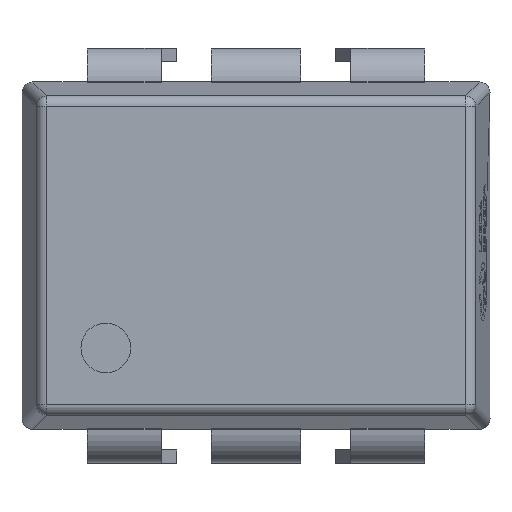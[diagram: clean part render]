
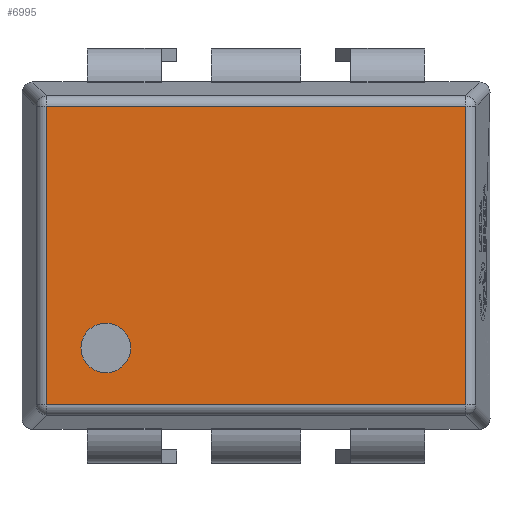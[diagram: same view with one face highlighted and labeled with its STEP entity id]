
A CAD part, top view. The second image highlights one B-rep face of the part: STEP entity #6995.
In plain terms, the highlighted planar face has unit normal (0, 0, 1).
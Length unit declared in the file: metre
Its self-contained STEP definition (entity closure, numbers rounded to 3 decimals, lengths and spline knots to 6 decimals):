
#427=CIRCLE('',#9329,0.000472);
#1834=ORIENTED_EDGE('',*,*,#3195,.F.);
#1835=ORIENTED_EDGE('',*,*,#3158,.T.);
#1836=ORIENTED_EDGE('',*,*,#3189,.T.);
#1837=ORIENTED_EDGE('',*,*,#3193,.T.);
#1838=ORIENTED_EDGE('',*,*,#3162,.T.);
#3158=EDGE_CURVE('',#3856,#3865,#4502,.T.);
#3162=EDGE_CURVE('',#3866,#3856,#4505,.T.);
#3189=EDGE_CURVE('',#3865,#3878,#4520,.T.);
#3193=EDGE_CURVE('',#3878,#3866,#4523,.T.);
#3195=EDGE_CURVE('',#3880,#3880,#427,.T.);
#3856=VERTEX_POINT('',#13514);
#3865=VERTEX_POINT('',#13544);
#3866=VERTEX_POINT('',#13549);
#3878=VERTEX_POINT('',#13601);
#3880=VERTEX_POINT('',#13617);
#4502=LINE('',#13545,#5189);
#4505=LINE('',#13552,#5192);
#4520=LINE('',#13602,#5207);
#4523=LINE('',#13607,#5210);
#5189=VECTOR('',#10555,1.);
#5192=VECTOR('',#10562,1.);
#5207=VECTOR('',#10625,1.);
#5210=VECTOR('',#10632,1.);
#5672=EDGE_LOOP('',(#1834));
#5673=EDGE_LOOP('',(#1835,#1836,#1837,#1838));
#6065=FACE_BOUND('',#5672,.T.);
#6066=FACE_BOUND('',#5673,.T.);
#6318=PLANE('',#9328);
#6995=ADVANCED_FACE('',(#6065,#6066),#6318,.T.);
#9328=AXIS2_PLACEMENT_3D('',#13615,#10645,#10646);
#9329=AXIS2_PLACEMENT_3D('',#13616,#10647,#10648);
#10555=DIRECTION('',(0.,-1.,0.));
#10562=DIRECTION('',(-1.,0.,0.));
#10625=DIRECTION('',(1.,0.,0.));
#10632=DIRECTION('',(0.,1.,0.));
#10645=DIRECTION('',(0.,0.,1.));
#10646=DIRECTION('',(1.,0.,0.));
#10647=DIRECTION('',(0.,0.,1.));
#10648=DIRECTION('',(1.,0.,0.));
#13514=CARTESIAN_POINT('',(-0.074123,-0.036928,0.01308));
#13544=CARTESIAN_POINT('',(-0.074123,-0.042592,0.01308));
#13545=CARTESIAN_POINT('',(-0.074123,-0.03976,0.01308));
#13549=CARTESIAN_POINT('',(-0.066169,-0.036928,0.01308));
#13552=CARTESIAN_POINT('',(-0.070146,-0.036928,0.01308));
#13601=CARTESIAN_POINT('',(-0.066169,-0.042592,0.01308));
#13602=CARTESIAN_POINT('',(-0.070146,-0.042592,0.01308));
#13607=CARTESIAN_POINT('',(-0.066169,-0.03976,0.01308));
#13615=CARTESIAN_POINT('',(-0.070146,-0.03976,0.01308));
#13616=CARTESIAN_POINT('',(-0.072997,-0.041515,0.01308));
#13617=CARTESIAN_POINT('',(-0.072525,-0.041515,0.01308));
